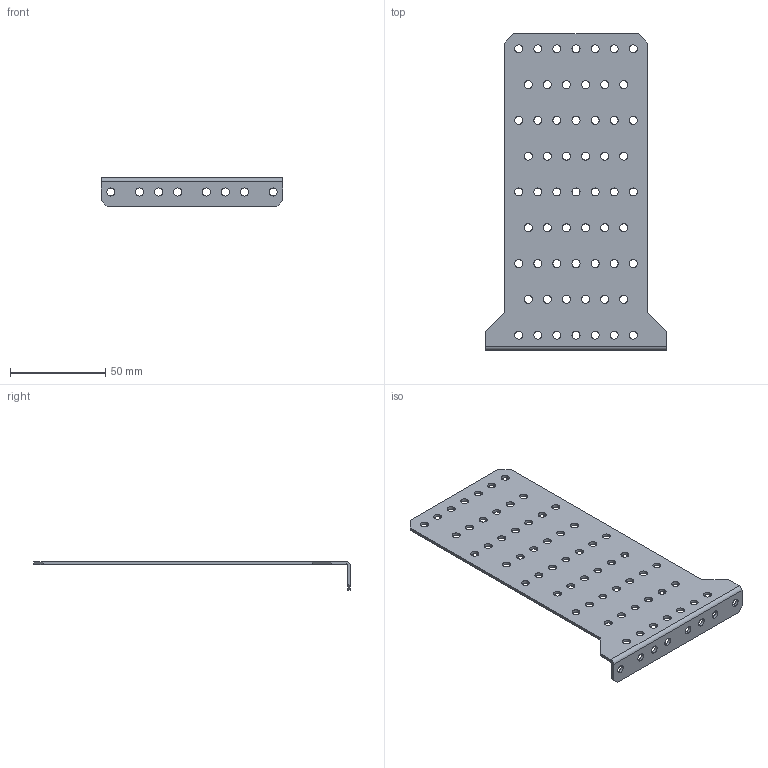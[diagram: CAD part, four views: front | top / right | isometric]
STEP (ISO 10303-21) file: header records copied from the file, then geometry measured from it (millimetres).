
FILE_DESCRIPTION(('CAx-IF Rec.Pracs.---Model Styling and Organization---1.2---2011-12-15','CAx-IF Rec.Pracs.---Geometric and Assembly Validation Properties---4.1---2014-06-16','CAx-IF Rec.Pracs.---PMI Polyline Presentation---2.0---2013-05-24'),'2;1');
FILE_NAME('R5M2W4M3BP.stp','2021-05-05T12:23:36+03:00',(''),(''),'STEP Interface 4.4 by CT CoreTechnologie','3D_Evolution4.4 by CT CoreTechnologie','');
FILE_SCHEMA(('AUTOMOTIVE_DESIGN { 1 0 10303 214 1 1 1 1 }'));
Length unit declared in the file: millimetre
Products named in the file (2): R5M2W4M3BP; RB.1200.00.00.0_-02
Assembly tree (1 placements, depth 2):
  R5M2W4M3BP
    RB.1200.00.00.0_-02
Bounding box: 95 x 166 x 15 mm (x, y, z)
Surface area: 28146.6 mm2 (no closed solid volume)
Topology: 0 solids, 1 shells, 155 faces, 453 edges, 300 vertices
Faces by surface type: cylinder 136, plane 19
Entity records: 5632 total; most frequent: DIRECTION 1039, CARTESIAN_POINT 910, ORIENTED_EDGE 906, EDGE_CURVE 453, AXIS2_PLACEMENT_3D 429, VERTEX_POINT 300, EDGE_LOOP 289, CIRCLE 272
